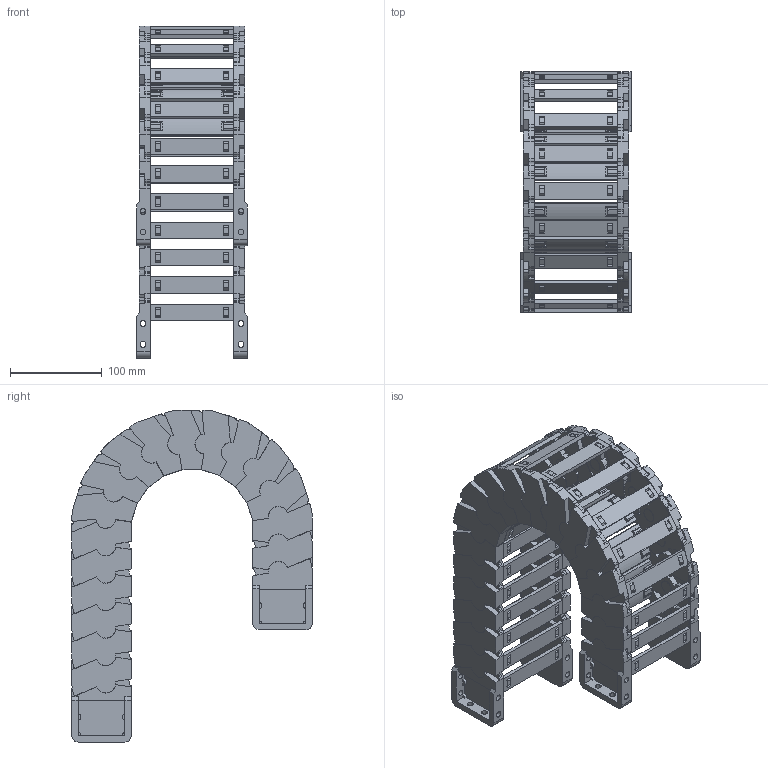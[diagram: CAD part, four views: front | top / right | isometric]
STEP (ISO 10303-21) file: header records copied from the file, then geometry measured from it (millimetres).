
FILE_DESCRIPTION((''),'2;1');
FILE_NAME('JY-52X90-R100_ASM','2025-09-12T14:37:50',('admin'),(''),'CREO PARAMETRIC BY PTC INC, 2021023','CREO PARAMETRIC BY PTC INC, 2021023','');
FILE_SCHEMA(('CONFIG_CONTROL_DESIGN'));
Length unit declared in the file: millimetre
Products named in the file (11): 52XL-L; 42-52XL-YP; 52XL-R; ASM0001_ASM; 52-LTT-A-L; 52-LTT-A-R; 52XL-LTT-A_ASM; 52-LTT-B-L; 52-LTT-B-R; 52XL-LTT-B_ASM; JY-52X90-R100_ASM
Assembly tree (31 placements, depth 3):
  JY-52X90-R100_ASM
    ASM0001_ASM  x17
      52XL-L
      42-52XL-YP
      52XL-R
    52XL-LTT-A_ASM
      52-LTT-A-L
      42-52XL-YP  x2
      52-LTT-A-R
    52XL-LTT-B_ASM
      52-LTT-B-L
      42-52XL-YP  x2
      52-LTT-B-R
Bounding box: 121 x 262.77 x 362.55 mm (x, y, z)
Volume: 1130041.5 mm3; surface area: 564054.2 mm2
Topology: 76 solids, 76 shells, 3900 faces, 11806 edges, 8056 vertices
Faces by surface type: plane 2770, cylinder 842, cone 288
Entity records: 18466 total; most frequent: CARTESIAN_POINT 3392, DIRECTION 3130, ORIENTED_EDGE 3124, EDGE_CURVE 1562, VECTOR 1074, LINE 1074, VERTEX_POINT 1056, AXIS2_PLACEMENT_3D 1028
